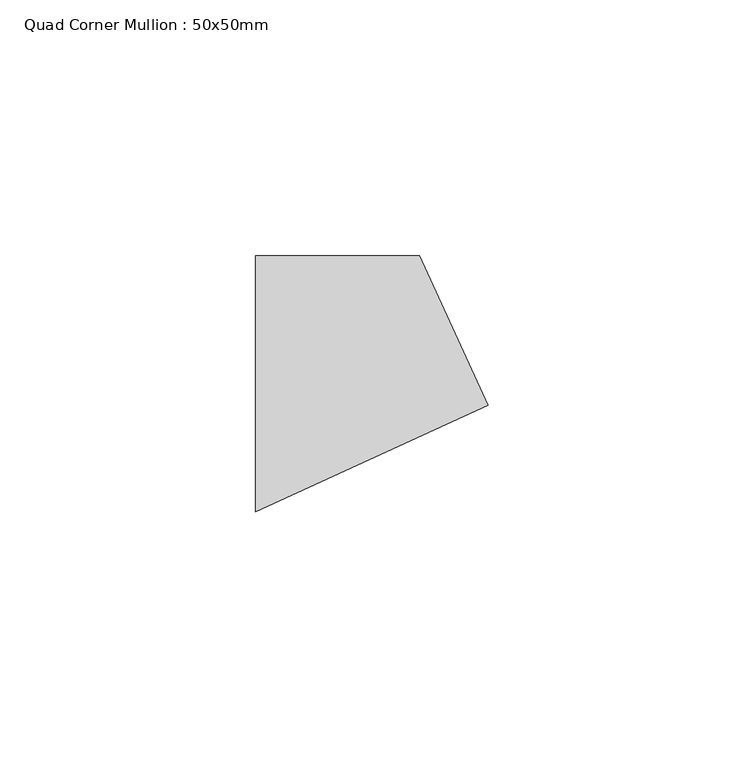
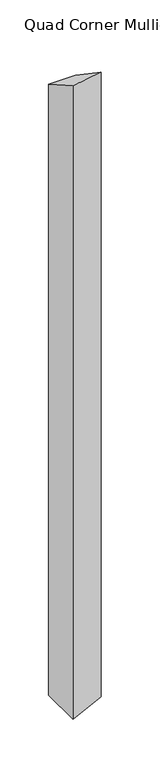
"""IFC4 building model written with IfcOpenShell, lengths in millimetres: member geometry, Quad Corner Mullion : 50x50mm."""

from ifc_helpers import new_model, si_unit, origin, place, context, project, spatial, faceted_brep, source, transform, mapped, element, save


def quad_corner_mullion_50x50mm_05b910b6(model_context):
    return source(origin(), model_context, "Body", "Brep", [
        faceted_brep([(29.4125559, -4.1926582, -779.4228634), (-16.0523154, -25.0, -779.4228634), (-16.0523154, 25.0, -779.4228634), (16.0523154, 25.0, -779.4228634), (16.0523154, 25.0, -14.4337567), (29.4125559, -4.1926582, 2.4206323), (-16.0523154, 25.0, -14.4337567), (-16.0523154, -25.0, 14.4337567)], [[[0, 1, 2, 3]], [[4, 5, 0, 3]], [[6, 4, 3, 2]], [[7, 6, 2, 1]], [[5, 7, 1, 0]], [[5, 4, 6, 7]]]),
    ])


if __name__ == "__main__":
    model = new_model("IFC4")
    model_context = context("Model", 3, world=origin())
    ifc_project = project(units=[si_unit("LENGTHUNIT", "METRE", prefix="MILLI")], contexts=[model_context])
    site = spatial("IfcSite", under=ifc_project)
    building = spatial("IfcBuilding", under=site)
    placement = place(None, origin())
    quad_corner_mullion_50x50mm_shape = quad_corner_mullion_50x50mm_05b910b6(model_context)
    element("IfcMember", 1, ObjectType="Quad Corner Mullion : 50x50mm", at=placement, inside=building, context=model_context, shape_type="MappedRepresentation", body=[
        mapped(quad_corner_mullion_50x50mm_shape, transform((0.0, 0.0, 0.0), x_axis=(1.0, 0.0, 0.0), y_axis=(0.0, 1.0, 0.0), z_axis=(0.0, 0.0, 1.0))),
    ])
    save(model, "model.ifc")
